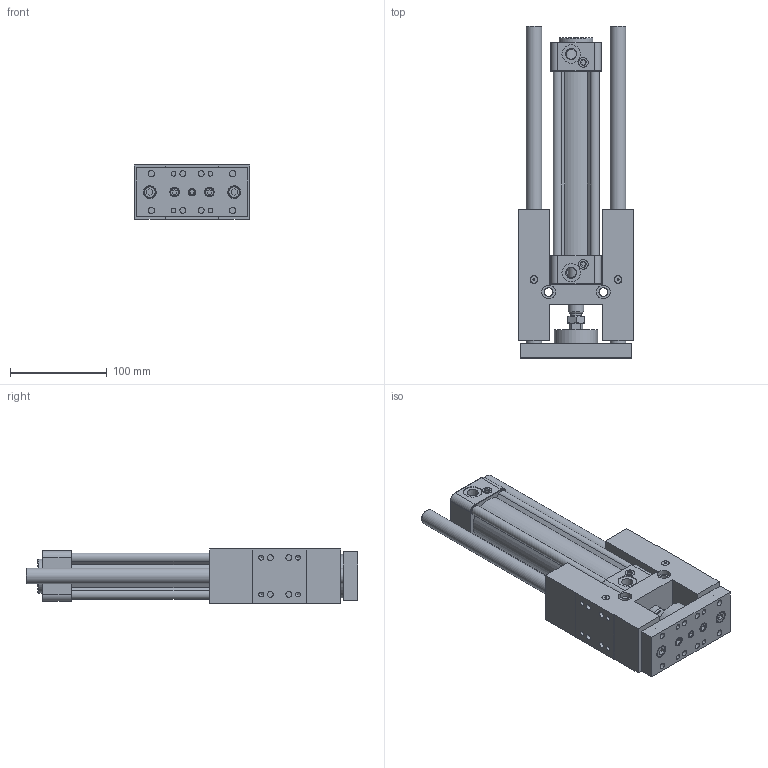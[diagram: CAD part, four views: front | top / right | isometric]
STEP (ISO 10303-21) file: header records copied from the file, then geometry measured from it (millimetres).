
FILE_DESCRIPTION((''),'2;1');
FILE_NAME('I:\3D電子目錄\氣缸\GHB(U)\GHB(U)\GHB(U)40\GHB(U)40x150.stp','2007-10-19T14:51:23',('Administrator'),(''),'Autodesk Inventor 11','Autodesk Inventor 11','');
FILE_SCHEMA(('AUTOMOTIVE_DESIGN { 1 0 10303 214 1 1 1 1 }'));
Length unit declared in the file: millimetre
Products named in the file (1): GHB(U)40
Bounding box: 119 x 343 x 56.2 mm (x, y, z)
Volume: 1023372.6 mm3; surface area: 237912 mm2
Topology: 17 solids, 17 shells, 779 faces, 1702 edges, 1054 vertices
Faces by surface type: plane 296, bspline 215, cylinder 170, cone 89, torus 9
Full cylindrical faces by diameter (mm): 2.6 x2, 4.9 x2, 4.917 x4, 5 x4, 5.5 x10, 6 x12, 6.5 x8, 6.8 x1, 7.8 x6, 8 x5, 9 x6, 9.5 x1, 9.9 x1, 10 x5, 10.2 x8, 12 x3, 13 x2, 16 x4, 18 x1, 19 x2, 21 x2, 35 x1, 40 x1, 45 x1
Entity records: 22134 total; most frequent: CARTESIAN_POINT 6597, DIRECTION 3108, ORIENTED_EDGE 2968, EDGE_CURVE 1484, AXIS2_PLACEMENT_3D 1218, EDGE_LOOP 1096, VERTEX_POINT 1022, FACE_OUTER_BOUND 779
